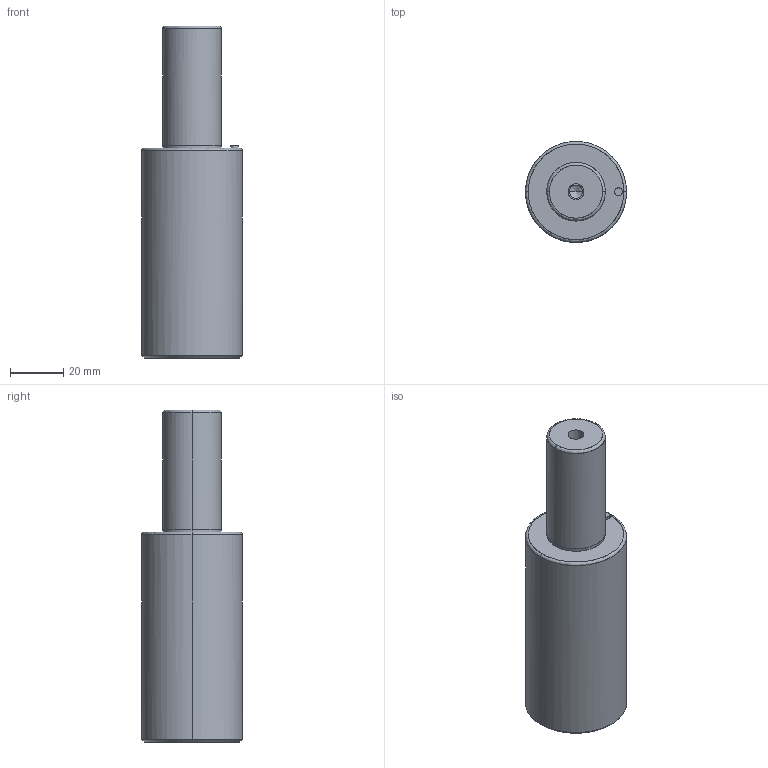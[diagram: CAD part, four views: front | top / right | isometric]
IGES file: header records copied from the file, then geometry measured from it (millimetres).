
Global section: file name: E:\UnigraphicsGraphicData\MISUMI_PRESS-PARTS\IGES\3d_gsc38-45_03840_r00.igs; native system: NX V5.0; preprocessor: UGS NX IGES V5.0; author: MISUMI; date: 20110105.160747; units: millimetre
Bounding box: 38 x 37.96 x 125 mm (x, y, z)
Surface area: 15328.6 mm2 (no closed solid volume)
Topology: 0 solids, 0 shells, 32 faces, 216 edges, 212 vertices
Faces by surface type: bspline 32
